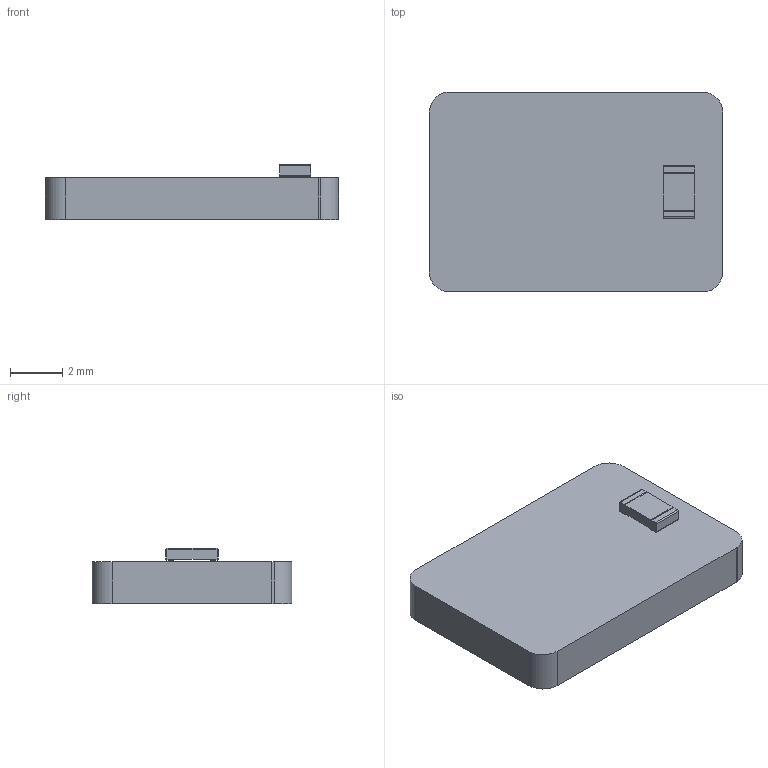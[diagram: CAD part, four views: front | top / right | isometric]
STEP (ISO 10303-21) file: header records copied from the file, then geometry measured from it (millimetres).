
FILE_DESCRIPTION(('KiCad electronic assembly'),'2;1');
FILE_NAME('CAN_terminator.step','2024-12-14T13:48:11',('Pcbnew'),( 'Kicad'),'Open CASCADE STEP processor 7.6','KiCad to STEP converter' ,'Unknown');
FILE_SCHEMA(('AUTOMOTIVE_DESIGN { 1 0 10303 214 1 1 1 1 }'));
Length unit declared in the file: millimetre
Products named in the file (4): CAN_terminator 1; R_0805_2012Metric; CAN_terminator_PCB
Assembly tree (3 placements, depth 3):
  CAN_terminator 1
    R_0805_2012Metric
      R_0805_2012Metric
    CAN_terminator_PCB
Bounding box: 11.18 x 7.62 x 2.1 mm (x, y, z)
Volume: 136.5 mm3; surface area: 235.1 mm2
Topology: 2 solids, 2 shells, 39 faces, 101 edges, 66 vertices
Faces by surface type: plane 27, cylinder 12
Entity records: 1444 total; most frequent: DIRECTION 211, CARTESIAN_POINT 210, ORIENTED_EDGE 202, EDGE_CURVE 101, LINE 77, VECTOR 77, AXIS2_PLACEMENT_3D 67, VERTEX_POINT 66
